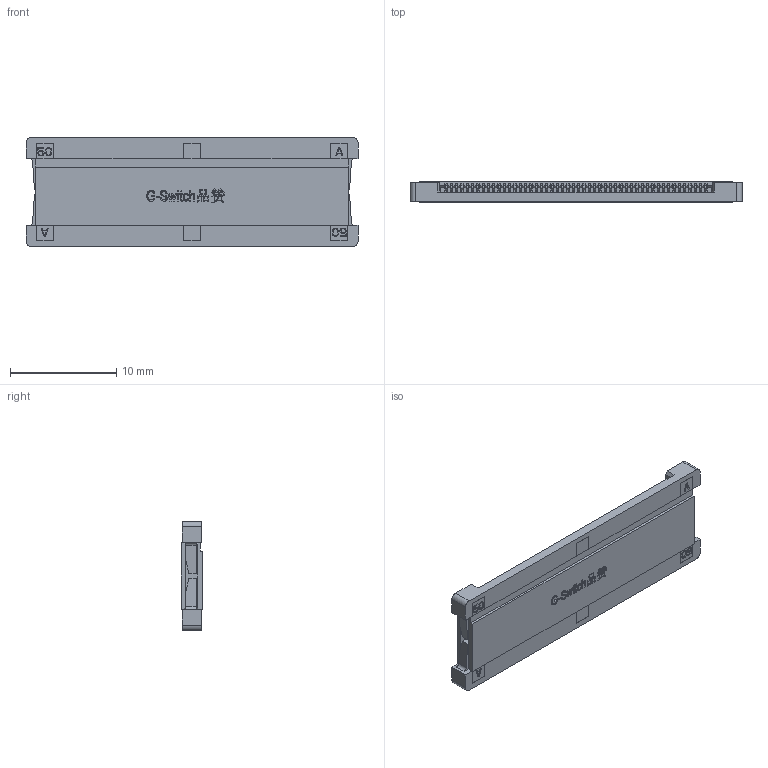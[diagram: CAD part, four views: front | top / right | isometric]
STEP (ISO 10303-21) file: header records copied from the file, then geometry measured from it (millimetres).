
FILE_DESCRIPTION (( 'STEP AP203' ), '1' );
FILE_NAME ('GT-F0521AR20-50SBT02.STEP', '2024-09-25T09:17:08', ( '' ), ( '' ), 'SwSTEP 2.0', 'SolidWorks 2020', '' );
FILE_SCHEMA (( 'CONFIG_CONTROL_DESIGN' ));
Products named in the file (1): GT-F0521AR20-50SBT02
Bounding box: 31.3 x 2.02 x 10.3 mm (x, y, z)
Volume: 407.7 mm3; surface area: 2495.8 mm2
Topology: 1 solids, 1 shells, 4350 faces, 14236 edges, 9314 vertices
Faces by surface type: plane 2821, cylinder 1458, bspline 71
Entity records: 160631 total; most frequent: CARTESIAN_POINT 33900, ORIENTED_EDGE 28472, DIRECTION 24906, EDGE_CURVE 14236, VECTOR 10714, LINE 10714, VERTEX_POINT 9314, AXIS2_PLACEMENT_3D 7096
